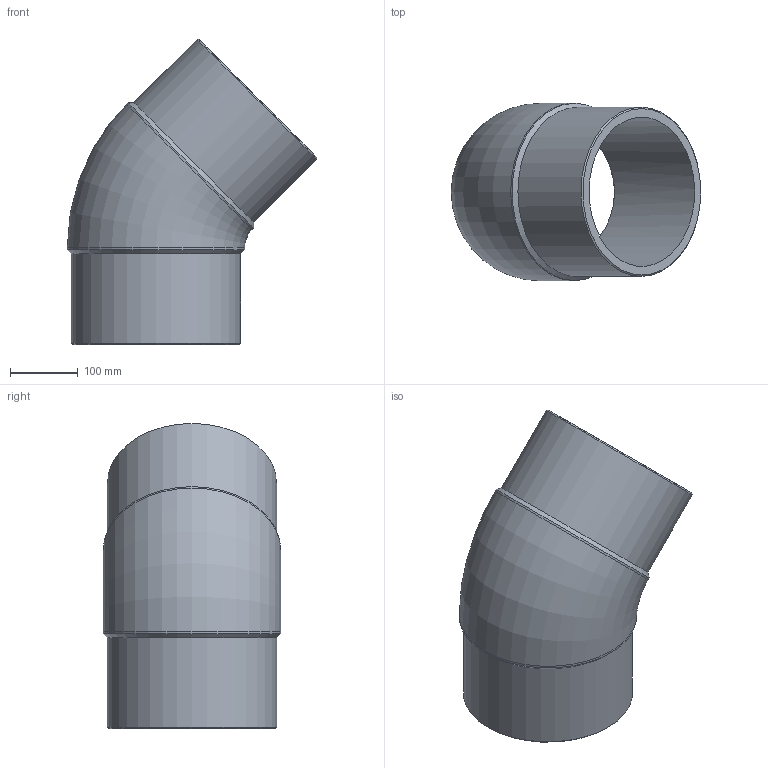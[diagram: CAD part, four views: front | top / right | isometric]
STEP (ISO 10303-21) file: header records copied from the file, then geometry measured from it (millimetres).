
FILE_DESCRIPTION(/* description */ ('Unknown'),/* implementation_level */ '2;1');
FILE_NAME(/* name */ 'G4P250B',/* time_stamp */ '2022-01-21T15:20:58+01:00',/* author */ ('Unknown'),/* organization */ ('Unknown'),/* preprocessor_version */ 'ST-DEVELOPER v18.1',/* originating_system */ 'Solid Edge',/* authorisation */ 'Unknown');
FILE_SCHEMA (('AUTOMOTIVE_DESIGN {1 0 10303 214 3 1 1}'));
Length unit declared in the file: millimetre
Products named in the file (1): G4P250B
Bounding box: 368.59 x 262 x 450.59 mm (x, y, z)
Volume: 5309207.6 mm3; surface area: 648516.6 mm2
Topology: 1 solids, 1 shells, 14 faces, 34 edges, 22 vertices
Faces by surface type: cylinder 6, cone 4, plane 2, torus 2
Full cylindrical faces by diameter (mm): 220.4 x2, 250 x2, 262 x2
Entity records: 372 total; most frequent: CARTESIAN_POINT 72, DIRECTION 60, ORIENTED_EDGE 38, AXIS2_PLACEMENT_3D 30, EDGE_LOOP 27, FACE_BOUND 27, EDGE_CURVE 19, VERTEX_POINT 18
